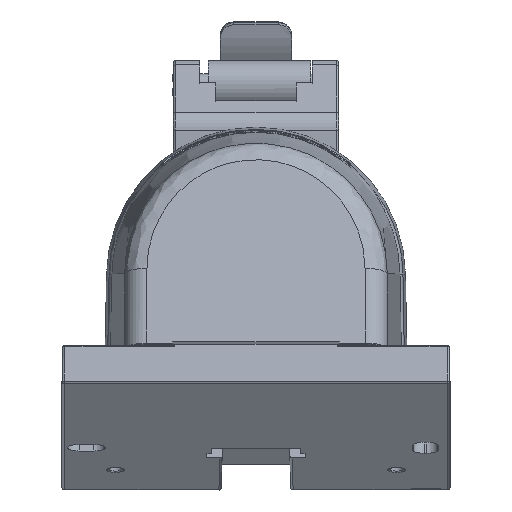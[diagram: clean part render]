
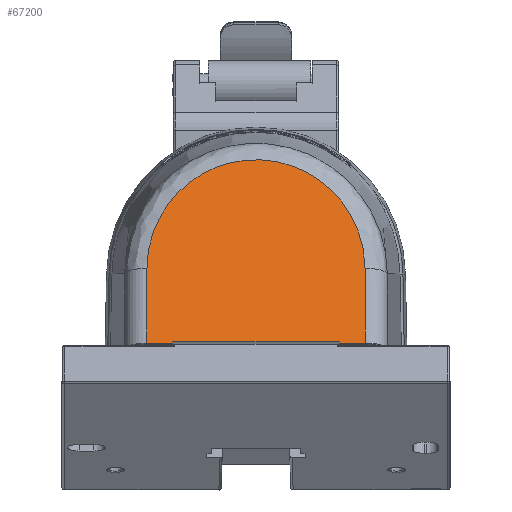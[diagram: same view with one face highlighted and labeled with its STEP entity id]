
A CAD part, top view. The second image highlights one B-rep face of the part: STEP entity #67200.
In plain terms, the highlighted planar face has unit normal (0, 0.259, 0.966).
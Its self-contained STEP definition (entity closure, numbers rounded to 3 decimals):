
#14581=CARTESIAN_POINT('',(-24.499,-15.044,
87.97));
#17107=DIRECTION('',(-0.003,-0.966,0.259));
#17108=VECTOR('',#17107,17.357);
#17109=CARTESIAN_POINT('',(-24.442,1.721,
83.478));
#17110=LINE('2530',#17109,#17108);
#17111=CARTESIAN_POINT('',(24.442,1.721,83.478));
#17112=CARTESIAN_POINT('',(24.439,2.425,83.289));
#17113=CARTESIAN_POINT('',(24.374,3.827,82.913));
#17114=CARTESIAN_POINT('',(24.094,5.926,82.351));
#17115=CARTESIAN_POINT('',(23.633,7.99,81.798));
#17116=CARTESIAN_POINT('',(22.998,10.003,81.258));
#17117=CARTESIAN_POINT('',(22.194,11.949,80.737));
#17118=CARTESIAN_POINT('',(21.228,13.815,80.237));
#17119=CARTESIAN_POINT('',(20.109,15.584,79.763));
#17120=CARTESIAN_POINT('',(18.848,17.246,79.318));
#17121=CARTESIAN_POINT('',(17.455,18.79,78.904));
#17122=CARTESIAN_POINT('',(15.943,20.204,78.525));
#17123=CARTESIAN_POINT('',(14.322,21.481,78.183));
#17124=CARTESIAN_POINT('',(12.606,22.613,77.879));
#17125=CARTESIAN_POINT('',(10.806,23.595,77.617));
#17126=CARTESIAN_POINT('',(8.937,24.419,77.396));
#17127=CARTESIAN_POINT('',(7.01,25.084,77.217));
#17128=CARTESIAN_POINT('',(5.039,25.585,77.083));
#17129=CARTESIAN_POINT('',(3.036,25.921,76.993));
#17130=CARTESIAN_POINT('',(1.014,26.089,76.948));
#17131=CARTESIAN_POINT('',(-1.014,26.089,
76.948));
#17132=CARTESIAN_POINT('',(-3.036,25.921,
76.993));
#17133=CARTESIAN_POINT('',(-5.039,25.585,
77.083));
#17134=CARTESIAN_POINT('',(-7.011,25.084,
77.217));
#17135=CARTESIAN_POINT('',(-8.937,24.419,
77.396));
#17136=CARTESIAN_POINT('',(-10.807,23.594,
77.617));
#17137=CARTESIAN_POINT('',(-12.606,22.613,
77.88));
#17138=CARTESIAN_POINT('',(-14.322,21.481,
78.183));
#17139=CARTESIAN_POINT('',(-15.943,20.204,
78.525));
#17140=CARTESIAN_POINT('',(-17.456,18.789,
78.904));
#17141=CARTESIAN_POINT('',(-18.848,17.246,
79.318));
#17142=CARTESIAN_POINT('',(-20.109,15.584,
79.763));
#17143=CARTESIAN_POINT('',(-21.228,13.814,
80.237));
#17144=CARTESIAN_POINT('',(-22.194,11.949,
80.737));
#17145=CARTESIAN_POINT('',(-22.998,10.003,
81.258));
#17146=CARTESIAN_POINT('',(-23.633,7.99,
81.798));
#17147=CARTESIAN_POINT('',(-24.094,5.926,
82.351));
#17148=CARTESIAN_POINT('',(-24.374,3.827,
82.913));
#17149=CARTESIAN_POINT('',(-24.439,2.425,
83.289));
#17150=CARTESIAN_POINT('',(-24.442,1.721,
83.478));
#17199=DIRECTION('',(0.,-0.966,0.259));
#17200=VECTOR('',#17199,0.34);
#17201=CARTESIAN_POINT('',(18.65,-14.716,87.882));
#17202=LINE('3966',#17201,#17200);
#17203=DIRECTION('',(-1.,0.,0.));
#17204=VECTOR('',#17203,37.3);
#17205=CARTESIAN_POINT('',(18.65,-14.716,87.882));
#17206=LINE('3985',#17205,#17204);
#17207=DIRECTION('',(0.,0.966,-0.259));
#17208=VECTOR('',#17207,0.34);
#17209=CARTESIAN_POINT('',(-18.65,-15.044,87.97));
#17210=LINE('3965',#17209,#17208);
#17224=DIRECTION('',(-1.,0.,0.));
#17225=VECTOR('',#17224,5.849);
#17226=CARTESIAN_POINT('',(24.499,-15.044,
87.97));
#17227=LINE('2521',#17226,#17225);
#17360=DIRECTION('',(-0.003,0.966,-0.259));
#17361=VECTOR('',#17360,17.357);
#17362=CARTESIAN_POINT('',(24.499,-15.044,
87.97));
#17363=LINE('2532',#17362,#17361);
#18200=DIRECTION('',(-1.,0.,0.));
#18201=VECTOR('',#18200,5.849);
#18202=CARTESIAN_POINT('',(-18.65,-15.044,87.97));
#18203=LINE('2565',#18202,#18201);
#29269=VERTEX_POINT('',#17111);
#29270=VERTEX_POINT('',#17150);
#29352=VERTEX_POINT('',#14581);
#29357=CARTESIAN_POINT('',(24.499,-15.044,
87.97));
#29358=CARTESIAN_POINT('',(18.65,-15.044,87.97));
#29359=VERTEX_POINT('',#29357);
#29360=VERTEX_POINT('',#29358);
#29385=CARTESIAN_POINT('',(-18.65,-15.044,87.97));
#29386=VERTEX_POINT('',#29385);
#30498=CARTESIAN_POINT('',(-18.65,-14.716,87.882));
#30500=VERTEX_POINT('',#30498);
#30502=CARTESIAN_POINT('',(18.65,-14.716,87.882));
#30504=VERTEX_POINT('',#30502);
#67180=CARTESIAN_POINT('',(0.266,-15.226,
88.019));
#67181=DIRECTION('',(0.,-0.259,-0.966));
#67182=DIRECTION('',(1.,0.,0.));
#67183=AXIS2_PLACEMENT_3D('',#67180,#67181,#67182);
#67184=PLANE('404',#67183);
#67186=ORIENTED_EDGE('3966',*,*,#67185,.F.);
#67187=ORIENTED_EDGE('3985',*,*,#61732,.T.);
#67189=ORIENTED_EDGE('3965',*,*,#67188,.F.);
#67191=ORIENTED_EDGE('2565',*,*,#67190,.T.);
#67192=ORIENTED_EDGE('2530',*,*,#67033,.F.);
#67193=ORIENTED_EDGE('2470',*,*,#67159,.F.);
#67195=ORIENTED_EDGE('2532',*,*,#67194,.F.);
#67197=ORIENTED_EDGE('2521',*,*,#67196,.T.);
#67198=EDGE_LOOP('404',(#67186,#67187,#67189,#67191,#67192,#67193,#67195,
#67197));
#67199=FACE_OUTER_BOUND('404',#67198,.F.);
#17151=B_SPLINE_CURVE_WITH_KNOTS('2470',3,(#17111,#17112,#17113,#17114,#17115,
#17116,#17117,#17118,#17119,#17120,#17121,#17122,#17123,#17124,#17125,#17126,
#17127,#17128,#17129,#17130,#17131,#17132,#17133,#17134,#17135,#17136,#17137,
#17138,#17139,#17140,#17141,#17142,#17143,#17144,#17145,#17146,#17147,#17148,
#17149,#17150),.UNSPECIFIED.,.F.,.F.,(4,1,1,1,1,1,1,1,1,1,1,1,1,1,1,1,1,1,1,1,1,
1,1,1,1,1,1,1,1,1,1,1,1,1,1,1,1,4),(0.,0.027,0.054,
0.081,0.108,0.135,0.162,
0.189,0.216,0.243,0.27,
0.297,0.324,0.351,0.378,
0.405,0.432,0.459,0.486,
0.514,0.541,0.568,0.595,
0.622,0.649,0.676,0.703,
0.73,0.757,0.784,0.811,
0.838,0.865,0.892,0.919,
0.946,0.973,1.),.UNSPECIFIED.);
#61732=EDGE_CURVE('3985',#30504,#30500,#17206,.T.);
#67033=EDGE_CURVE('2530',#29270,#29352,#17110,.T.);
#67159=EDGE_CURVE('2470',#29269,#29270,#17151,.T.);
#67185=EDGE_CURVE('3966',#30504,#29360,#17202,.T.);
#67188=EDGE_CURVE('3965',#29386,#30500,#17210,.T.);
#67190=EDGE_CURVE('2565',#29386,#29352,#18203,.T.);
#67194=EDGE_CURVE('2532',#29359,#29269,#17363,.T.);
#67196=EDGE_CURVE('2521',#29359,#29360,#17227,.T.);
#67200=ADVANCED_FACE('404',(#67199),#67184,.F.);
